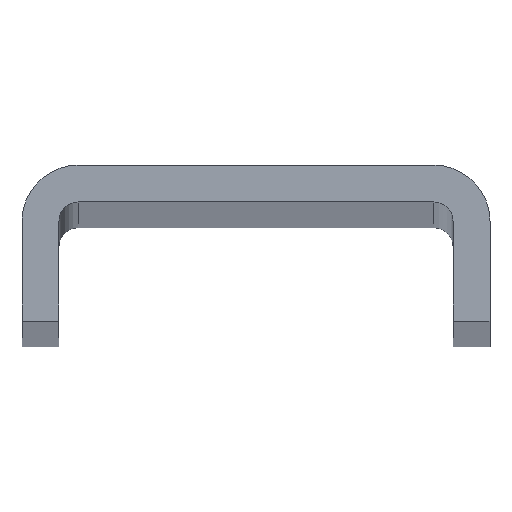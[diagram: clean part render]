
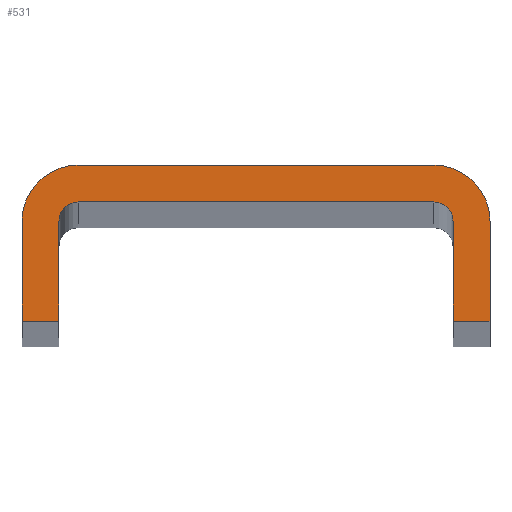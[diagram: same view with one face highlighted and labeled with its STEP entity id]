
A CAD part, top view. The second image highlights one B-rep face of the part: STEP entity #531.
In plain terms, the highlighted planar face has unit normal (0, 0, 1).
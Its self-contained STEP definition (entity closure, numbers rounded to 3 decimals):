
#17 = CARTESIAN_POINT ( 'NONE',  ( -16.05, 0., 0. ) ) ;
#25 = DIRECTION ( 'NONE',  ( 0., 0., -1. ) ) ;
#47 = CARTESIAN_POINT ( 'NONE',  ( 14.478, 8.128, 0. ) ) ;
#50 = VERTEX_POINT ( 'NONE', #324 ) ;
#57 = EDGE_CURVE ( 'NONE', #303, #67, #571, .T. ) ;
#58 = ORIENTED_EDGE ( 'NONE', *, *, #176, .T. ) ;
#67 = VERTEX_POINT ( 'NONE', #375 ) ;
#72 = VECTOR ( 'NONE', #147, 1000. ) ;
#74 = EDGE_CURVE ( 'NONE', #50, #376, #523, .T. ) ;
#77 = CARTESIAN_POINT ( 'NONE',  ( -14.478, 8.128, 0. ) ) ;
#81 = CARTESIAN_POINT ( 'NONE',  ( 16.05, 0., 0. ) ) ;
#82 = EDGE_LOOP ( 'NONE', ( #610, #140, #306, #58, #434, #323, #553, #615, #496, #288, #513, #242 ) ) ;
#91 = DIRECTION ( 'NONE',  ( -1., 0., 0. ) ) ;
#101 = VECTOR ( 'NONE', #422, 1000. ) ;
#116 = CIRCLE ( 'NONE', #613, 4.572 ) ;
#117 = CIRCLE ( 'NONE', #329, 4.572 ) ;
#118 = CARTESIAN_POINT ( 'NONE',  ( 16.05, 0., 0. ) ) ;
#125 = CARTESIAN_POINT ( 'NONE',  ( 19.05, 8.128, 0. ) ) ;
#131 = DIRECTION ( 'NONE',  ( -1., 0., 0. ) ) ;
#134 = VERTEX_POINT ( 'NONE', #118 ) ;
#140 = ORIENTED_EDGE ( 'NONE', *, *, #608, .T. ) ;
#142 = AXIS2_PLACEMENT_3D ( 'NONE', #592, #275, #645 ) ;
#146 = LINE ( 'NONE', #320, #428 ) ;
#147 = DIRECTION ( 'NONE',  ( 0., -1., 0. ) ) ;
#156 = EDGE_CURVE ( 'NONE', #67, #565, #117, .T. ) ;
#164 = DIRECTION ( 'NONE',  ( 0., 0., -1. ) ) ;
#175 = CIRCLE ( 'NONE', #142, 1.572 ) ;
#176 = EDGE_CURVE ( 'NONE', #546, #134, #471, .T. ) ;
#180 = CARTESIAN_POINT ( 'NONE',  ( -19.05, 8.128, 0. ) ) ;
#181 = VECTOR ( 'NONE', #289, 1000. ) ;
#202 = CARTESIAN_POINT ( 'NONE',  ( -14.478, 12.7, 0. ) ) ;
#209 = VECTOR ( 'NONE', #261, 1000. ) ;
#222 = DIRECTION ( 'NONE',  ( 0., 1., 0. ) ) ;
#233 = VERTEX_POINT ( 'NONE', #255 ) ;
#237 = AXIS2_PLACEMENT_3D ( 'NONE', #482, #164, #545 ) ;
#242 = ORIENTED_EDGE ( 'NONE', *, *, #544, .T. ) ;
#243 = VECTOR ( 'NONE', #658, 1000. ) ;
#252 = FACE_OUTER_BOUND ( 'NONE', #82, .T. ) ;
#255 = CARTESIAN_POINT ( 'NONE',  ( -14.478, 9.7, 0. ) ) ;
#261 = DIRECTION ( 'NONE',  ( 0., 1., 0. ) ) ;
#270 = VERTEX_POINT ( 'NONE', #362 ) ;
#275 = DIRECTION ( 'NONE',  ( 0., 0., -1. ) ) ;
#282 = CARTESIAN_POINT ( 'NONE',  ( -16.05, 8.128, 0. ) ) ;
#283 = CARTESIAN_POINT ( 'NONE',  ( 16.05, 8.128, 0. ) ) ;
#284 = EDGE_CURVE ( 'NONE', #376, #620, #498, .T. ) ;
#288 = ORIENTED_EDGE ( 'NONE', *, *, #284, .F. ) ;
#289 = DIRECTION ( 'NONE',  ( 1., 0., 0. ) ) ;
#303 = VERTEX_POINT ( 'NONE', #202 ) ;
#306 = ORIENTED_EDGE ( 'NONE', *, *, #389, .T. ) ;
#320 = CARTESIAN_POINT ( 'NONE',  ( 19.05, 8.128, 0. ) ) ;
#323 = ORIENTED_EDGE ( 'NONE', *, *, #326, .F. ) ;
#324 = CARTESIAN_POINT ( 'NONE',  ( -16.05, 0., 0. ) ) ;
#326 = EDGE_CURVE ( 'NONE', #565, #334, #146, .T. ) ;
#329 = AXIS2_PLACEMENT_3D ( 'NONE', #47, #410, #91 ) ;
#334 = VERTEX_POINT ( 'NONE', #419 ) ;
#339 = CARTESIAN_POINT ( 'NONE',  ( -14.478, 8.128, 0. ) ) ;
#344 = CARTESIAN_POINT ( 'NONE',  ( -14.478, 9.7, 0. ) ) ;
#362 = CARTESIAN_POINT ( 'NONE',  ( 14.478, 9.7, 0. ) ) ;
#375 = CARTESIAN_POINT ( 'NONE',  ( 14.478, 12.7, 0. ) ) ;
#376 = VERTEX_POINT ( 'NONE', #483 ) ;
#386 = DIRECTION ( 'NONE',  ( -1., 0., 0. ) ) ;
#389 = EDGE_CURVE ( 'NONE', #270, #546, #175, .T. ) ;
#410 = DIRECTION ( 'NONE',  ( 0., 0., -1. ) ) ;
#413 = AXIS2_PLACEMENT_3D ( 'NONE', #77, #444, #131 ) ;
#417 = DIRECTION ( 'NONE',  ( 0., -1., 0. ) ) ;
#419 = CARTESIAN_POINT ( 'NONE',  ( 19.05, 0., 0. ) ) ;
#422 = DIRECTION ( 'NONE',  ( -1., 0., 0. ) ) ;
#428 = VECTOR ( 'NONE', #417, 1000. ) ;
#433 = VECTOR ( 'NONE', #584, 1000. ) ;
#434 = ORIENTED_EDGE ( 'NONE', *, *, #653, .T. ) ;
#444 = DIRECTION ( 'NONE',  ( 0., 0., -1. ) ) ;
#466 = CARTESIAN_POINT ( 'NONE',  ( 16.05, 8.128, 0. ) ) ;
#469 = LINE ( 'NONE', #604, #617 ) ;
#471 = LINE ( 'NONE', #466, #72 ) ;
#482 = CARTESIAN_POINT ( 'NONE',  ( -14.478, 8.128, 0. ) ) ;
#483 = CARTESIAN_POINT ( 'NONE',  ( -19.05, 0., 0. ) ) ;
#495 = EDGE_CURVE ( 'NONE', #620, #303, #116, .T. ) ;
#496 = ORIENTED_EDGE ( 'NONE', *, *, #495, .F. ) ;
#498 = LINE ( 'NONE', #525, #209 ) ;
#513 = ORIENTED_EDGE ( 'NONE', *, *, #74, .F. ) ;
#514 = VERTEX_POINT ( 'NONE', #282 ) ;
#523 = LINE ( 'NONE', #17, #101 ) ;
#525 = CARTESIAN_POINT ( 'NONE',  ( -19.05, 0., 0. ) ) ;
#528 = LINE ( 'NONE', #344, #243 ) ;
#531 = ADVANCED_FACE ( 'NONE', ( #252 ), #602, .F. ) ;
#532 = CARTESIAN_POINT ( 'NONE',  ( -14.478, 12.7, 0. ) ) ;
#544 = EDGE_CURVE ( 'NONE', #50, #514, #469, .T. ) ;
#545 = DIRECTION ( 'NONE',  ( -1., 0., 0. ) ) ;
#546 = VERTEX_POINT ( 'NONE', #283 ) ;
#553 = ORIENTED_EDGE ( 'NONE', *, *, #156, .F. ) ;
#565 = VERTEX_POINT ( 'NONE', #125 ) ;
#571 = LINE ( 'NONE', #532, #433 ) ;
#584 = DIRECTION ( 'NONE',  ( 1., 0., 0. ) ) ;
#590 = LINE ( 'NONE', #81, #181 ) ;
#592 = CARTESIAN_POINT ( 'NONE',  ( 14.478, 8.128, 0. ) ) ;
#602 = PLANE ( 'NONE',  #237 ) ;
#604 = CARTESIAN_POINT ( 'NONE',  ( -16.05, 0., 0. ) ) ;
#607 = EDGE_CURVE ( 'NONE', #514, #233, #673, .T. ) ;
#608 = EDGE_CURVE ( 'NONE', #233, #270, #528, .T. ) ;
#610 = ORIENTED_EDGE ( 'NONE', *, *, #607, .T. ) ;
#613 = AXIS2_PLACEMENT_3D ( 'NONE', #339, #25, #386 ) ;
#615 = ORIENTED_EDGE ( 'NONE', *, *, #57, .F. ) ;
#617 = VECTOR ( 'NONE', #222, 1000. ) ;
#620 = VERTEX_POINT ( 'NONE', #180 ) ;
#645 = DIRECTION ( 'NONE',  ( -1., 0., 0. ) ) ;
#653 = EDGE_CURVE ( 'NONE', #134, #334, #590, .T. ) ;
#658 = DIRECTION ( 'NONE',  ( 1., 0., 0. ) ) ;
#673 = CIRCLE ( 'NONE', #413, 1.572 ) ;
